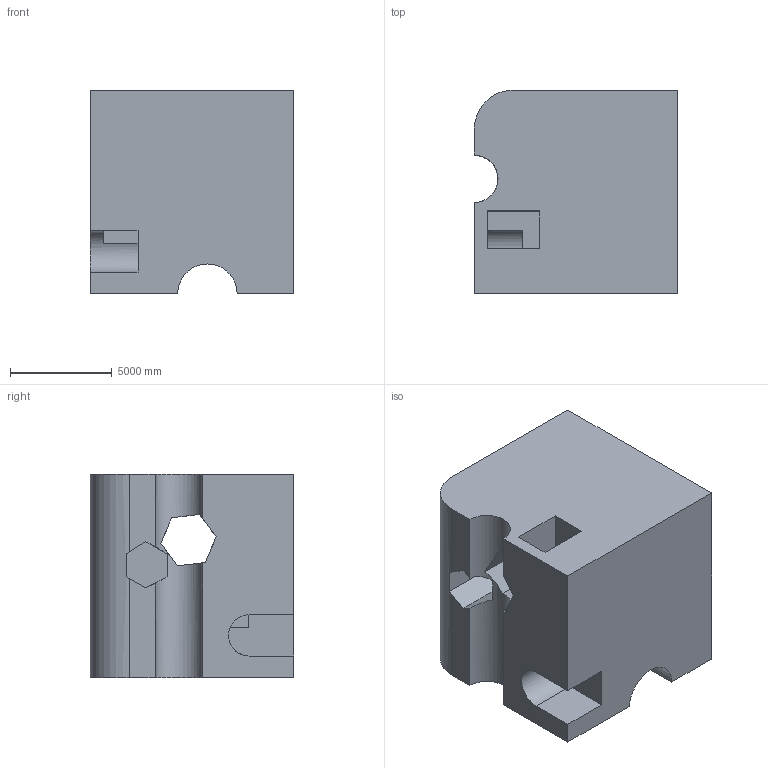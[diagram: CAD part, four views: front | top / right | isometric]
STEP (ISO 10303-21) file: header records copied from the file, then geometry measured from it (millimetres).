
FILE_DESCRIPTION (( 'STEP AP203' ), '1' );
FILE_NAME ('1621.STEP', '2022-08-25T15:15:52', ( 'user' ), ( '' ), 'SwSTEP 2.0', 'SolidWorks 2021', '' );
FILE_SCHEMA (( 'CONFIG_CONTROL_DESIGN' ));
Length unit declared in the file: centimetre
Products named in the file (1): 1621
Bounding box: 10000 x 10000 x 10000 mm (x, y, z)
Volume: 827551871165.1 mm3; surface area: 773057153.2 mm2
Topology: 1 solids, 1 shells, 35 faces, 111 edges, 74 vertices
Faces by surface type: plane 31, cylinder 4
Entity records: 1304 total; most frequent: CARTESIAN_POINT 248, ORIENTED_EDGE 222, DIRECTION 184, EDGE_CURVE 111, LINE 92, VECTOR 92, VERTEX_POINT 74, AXIS2_PLACEMENT_3D 46
